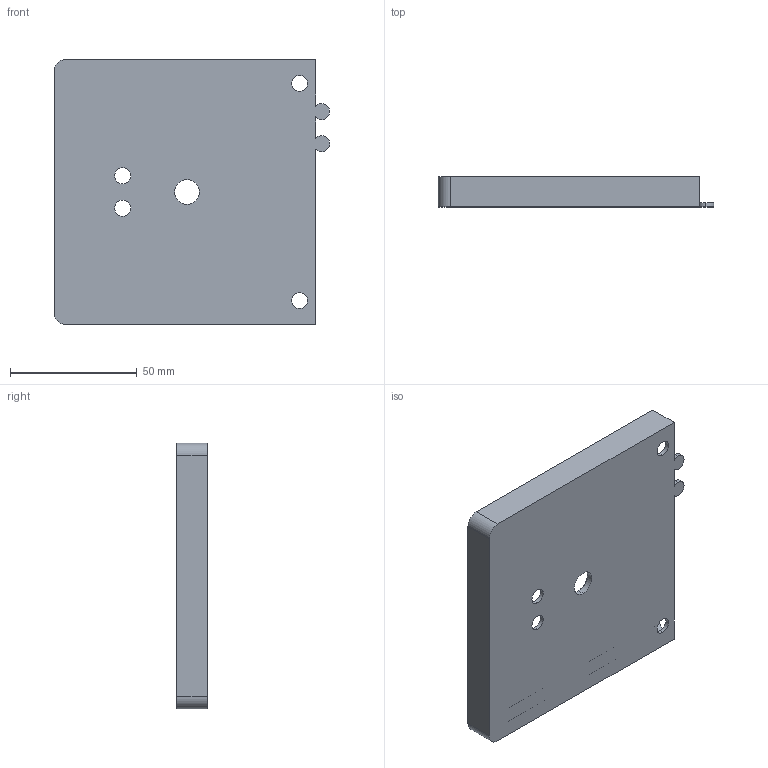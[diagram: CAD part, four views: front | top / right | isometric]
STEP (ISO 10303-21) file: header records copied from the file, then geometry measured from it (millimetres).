
FILE_DESCRIPTION (( 'STEP AP214' ), '1' );
FILE_NAME ('12 - Base Left.STEP', '2022-11-25T05:47:43', ( '' ), ( '' ), 'SwSTEP 2.0', 'SolidWorks 2021', '' );
FILE_SCHEMA (( 'AUTOMOTIVE_DESIGN' ));
Length unit declared in the file: inch
Products named in the file (1): 12 - Base Left
Bounding box: 108.74 x 11.91 x 104.78 mm (x, y, z)
Volume: 28194.7 mm3; surface area: 32091.4 mm2
Topology: 1 solids, 1 shells, 73 faces, 198 edges, 128 vertices
Faces by surface type: plane 40, cylinder 29, cone 4
Entity records: 2357 total; most frequent: CARTESIAN_POINT 406, DIRECTION 405, ORIENTED_EDGE 396, EDGE_CURVE 198, AXIS2_PLACEMENT_3D 135, LINE 135, VECTOR 135, VERTEX_POINT 128
